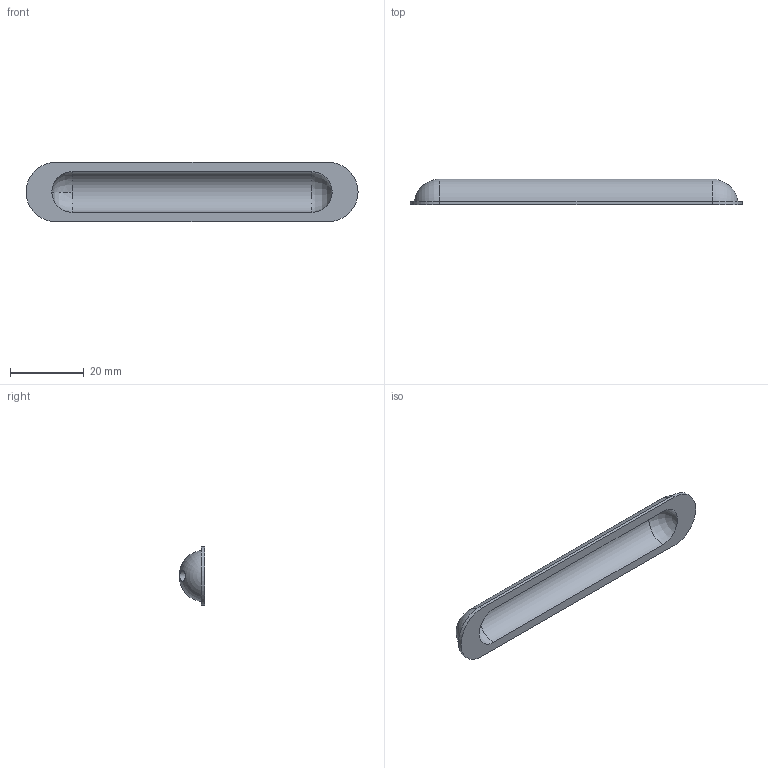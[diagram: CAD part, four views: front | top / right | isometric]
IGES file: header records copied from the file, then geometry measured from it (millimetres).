
Start section: Data from Parasolid IGES Translator 15.0.47, Copyright(c) 2006 Siemens P LM Software. All Rights Reserved.
Global section: file name: 9145283.igs; native system:  By UGS Corp.; preprocessor: XPlus GENERIC/IGES 3.0; author: Noname; organization: Noname; date: 20140122.141435; units: millimetre
Bounding box: 90 x 7 x 16 mm (x, y, z)
Surface area: 4134.3 mm2 (no closed solid volume)
Topology: 0 solids, 0 shells, 23 faces, 102 edges, 98 vertices
Faces by surface type: revolution 13, extrusion 10
